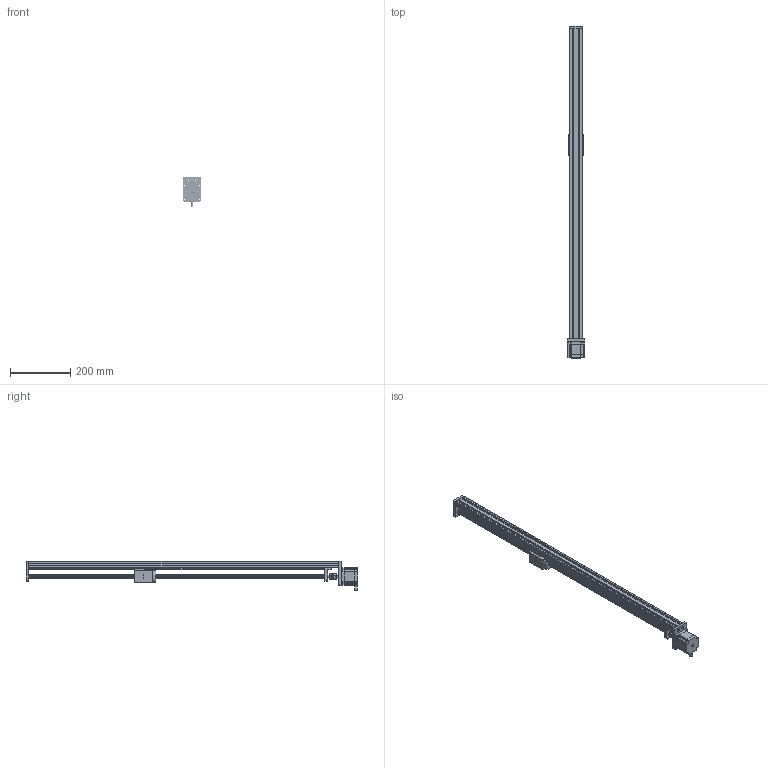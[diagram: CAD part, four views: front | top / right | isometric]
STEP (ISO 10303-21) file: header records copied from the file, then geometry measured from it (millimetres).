
FILE_DESCRIPTION(/* description */ (''),/* implementation_level */ '2;1');
FILE_NAME(/* name */ 'D:\资料\2D和3D--销售\40\X2\4E1D6746578B\X0\\16丝杆\3D\FLS40L90010C7\FLS40L90010C7.stp',/* time_stamp */ '2017-07-04T14:45:04+08:00',/* author */ ('JJJJJ'),/* organization */ (''),/* preprocessor_version */ 'ST-DEVELOPER v16.1',/* originating_system */ 'Autodesk Inventor 2016',/* authorisation */ '');
FILE_SCHEMA (('AUTOMOTIVE_DESIGN { 1 0 10303 214 3 1 1 }'));
Products named in the file (13): FLS40L100010C7LVXINGCAI; FLS40L100010C7DAOGUI; FLS40L100010C716HOUGAI; FLS40L100010C7ZHOUCHENG1; FLS40L100010C716QIANGAI; FLS40L100010C75756DIANJI; FLS40L100010C7ZHIXIANHUAKUAI; FLS40L100010C716LUOMU; FLS40L100010C716SIGAN; FLS40L100010C716ZHOUCHENGZUO; FLS40L100010C7LIANZHOUQI1; 连接块(16); FLS40L90010C7
Assembly tree (13 placements, depth 2):
  FLS40L90010C7
    FLS40L100010C7LVXINGCAI
    FLS40L100010C7DAOGUI
    FLS40L100010C716HOUGAI
    FLS40L100010C7ZHOUCHENG1  x2
    FLS40L100010C716QIANGAI
    FLS40L100010C75756DIANJI
    FLS40L100010C7ZHIXIANHUAKUAI
    FLS40L100010C716LUOMU
    FLS40L100010C716SIGAN
    FLS40L100010C716ZHOUCHENGZUO
    FLS40L100010C7LIANZHOUQI1
    连接块(16)
Bounding box: 57 x 1099 x 96.5 mm (x, y, z)
Volume: 891631.5 mm3; surface area: 616208.2 mm2
Topology: 31 solids, 31 shells, 721 faces, 1887 edges, 1240 vertices
Faces by surface type: plane 290, cylinder 261, bspline 128, sphere 16, cone 14, torus 12
Full cylindrical faces by diameter (mm): 2.459 x8, 2.5 x4, 3.242 x10, 3.3 x2, 3.5 x6, 3.8 x4, 4 x40, 4.134 x12, 4.5 x8, 4.677 x16, 5 x2, 5.5 x6, 6 x4, 6.35 x1, 8 x9, 9 x2, 9.35 x2, 10.323 x4, 12.667 x4, 14 x1, 14.067 x2, 15 x1, 15.933 x2, 17.333 x4, 18 x1, 19 x1, 19.677 x4, 20 x1, 22 x4, 28 x2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
Entity records: 69830 total; most frequent: CARTESIAN_POINT 53656, ORIENTED_EDGE 3084, DIRECTION 2891, EDGE_CURVE 1542, VERTEX_POINT 1118, EDGE_LOOP 1076, AXIS2_PLACEMENT_3D 1031, LINE 829
